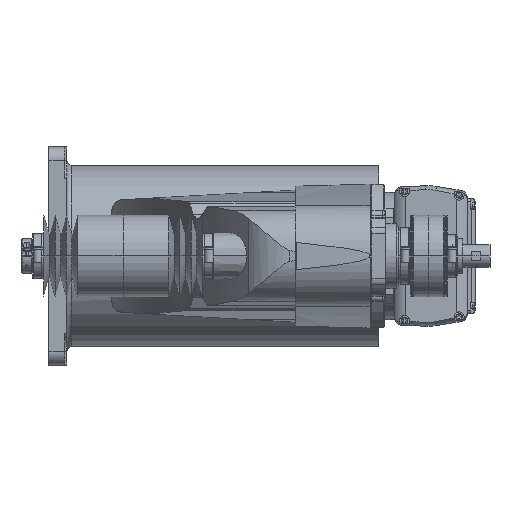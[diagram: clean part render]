
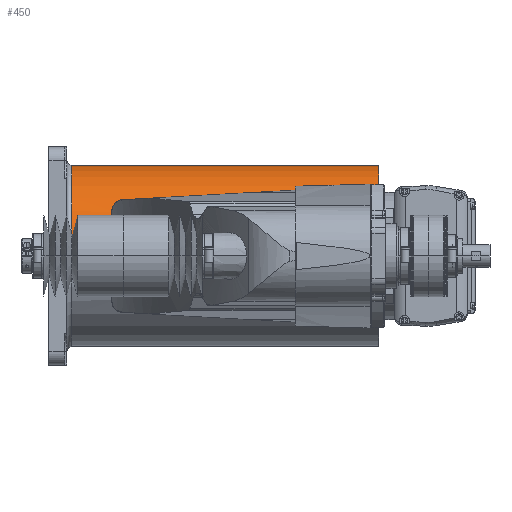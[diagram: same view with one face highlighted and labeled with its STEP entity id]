
A CAD part, left-side view. The second image highlights one B-rep face of the part: STEP entity #450.
In plain terms, the highlighted cylindrical face has radius 100 mm (diameter 200 mm), a partial arc.
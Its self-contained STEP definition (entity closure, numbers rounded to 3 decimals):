
#450 = ADVANCED_FACE( '', ( #2501 ), #2502, .T. );
#2501 = FACE_OUTER_BOUND( '', #6844, .T. );
#2502 = CYLINDRICAL_SURFACE( '', #6845, 100. );
#6844 = EDGE_LOOP( '', ( #11381, #11382, #11383, #11384, #11385, #11386, #11387, #11388, #11389, #11390, #11391, #11392, #11393, #11394, #11395, #11396 ) );
#6845 = AXIS2_PLACEMENT_3D( '', #11397, #11398, #11399 );
#11381 = ORIENTED_EDGE( '', *, *, #27055, .F. );
#11382 = ORIENTED_EDGE( '', *, *, #27056, .T. );
#11383 = ORIENTED_EDGE( '', *, *, #27057, .T. );
#11384 = ORIENTED_EDGE( '', *, *, #27058, .T. );
#11385 = ORIENTED_EDGE( '', *, *, #27059, .T. );
#11386 = ORIENTED_EDGE( '', *, *, #27060, .T. );
#11387 = ORIENTED_EDGE( '', *, *, #27061, .T. );
#11388 = ORIENTED_EDGE( '', *, *, #27062, .T. );
#11389 = ORIENTED_EDGE( '', *, *, #27063, .T. );
#11390 = ORIENTED_EDGE( '', *, *, #27064, .T. );
#11391 = ORIENTED_EDGE( '', *, *, #27065, .F. );
#11392 = ORIENTED_EDGE( '', *, *, #27066, .T. );
#11393 = ORIENTED_EDGE( '', *, *, #27067, .T. );
#11394 = ORIENTED_EDGE( '', *, *, #27068, .T. );
#11395 = ORIENTED_EDGE( '', *, *, #27069, .F. );
#11396 = ORIENTED_EDGE( '', *, *, #27070, .F. );
#11397 = CARTESIAN_POINT( '', ( 0., 194., 0. ) );
#11398 = DIRECTION( '', ( 0., 1., 0. ) );
#11399 = DIRECTION( '', ( 1., 0., 0. ) );
#27055 = EDGE_CURVE( '', #32088, #32089, #32090, .T. );
#27056 = EDGE_CURVE( '', #32088, #32091, #32092, .T. );
#27057 = EDGE_CURVE( '', #32091, #32093, #32094, .T. );
#27058 = EDGE_CURVE( '', #32093, #32095, #32096, .T. );
#27059 = EDGE_CURVE( '', #32095, #32097, #32098, .T. );
#27060 = EDGE_CURVE( '', #32097, #32099, #32100, .T. );
#27061 = EDGE_CURVE( '', #32099, #32101, #32102, .T. );
#27062 = EDGE_CURVE( '', #32101, #32103, #32104, .T. );
#27063 = EDGE_CURVE( '', #32103, #32105, #32106, .T. );
#27064 = EDGE_CURVE( '', #32105, #32107, #32108, .T. );
#27065 = EDGE_CURVE( '', #32109, #32107, #32110, .T. );
#27066 = EDGE_CURVE( '', #32109, #32111, #32112, .T. );
#27067 = EDGE_CURVE( '', #32111, #32113, #32114, .T. );
#27068 = EDGE_CURVE( '', #32113, #32115, #32116, .T. );
#27069 = EDGE_CURVE( '', #32117, #32115, #32118, .T. );
#27070 = EDGE_CURVE( '', #32089, #32117, #32119, .T. );
#32088 = VERTEX_POINT( '', #40214 );
#32089 = VERTEX_POINT( '', #40215 );
#32090 = LINE( '', #40216, #40217 );
#32091 = VERTEX_POINT( '', #40218 );
#32092 = CIRCLE( '', #40219, 100. );
#32093 = VERTEX_POINT( '', #40220 );
#32094 = LINE( '', #40221, #40222 );
#32095 = VERTEX_POINT( '', #40223 );
#32096 = CIRCLE( '', #40224, 100. );
#32097 = VERTEX_POINT( '', #40225 );
#32098 = LINE( '', #40226, #40227 );
#32099 = VERTEX_POINT( '', #40228 );
#32100 = CIRCLE( '', #40229, 100. );
#32101 = VERTEX_POINT( '', #40230 );
#32102 = B_SPLINE_CURVE_WITH_KNOTS( '', 3, ( #40231, #40232, #40233, #40234, #40235, #40236, #40237, #40238, #40239, #40240, #40241, #40242, #40243, #40244, #40245, #40246, #40247, #40248 ), .UNSPECIFIED., .F., .F., ( 4, 2, 2, 2, 2, 2, 2, 2, 4 ), ( -7.48, -6.36, -5.24, -4.12, -3., -2.25, -1.5, -0.75, 0. ), .UNSPECIFIED. );
#32103 = VERTEX_POINT( '', #40249 );
#32104 = LINE( '', #40250, #40251 );
#32105 = VERTEX_POINT( '', #40252 );
#32106 = CIRCLE( '', #40253, 100. );
#32107 = VERTEX_POINT( '', #40254 );
#32108 = CIRCLE( '', #40255, 100. );
#32109 = VERTEX_POINT( '', #40256 );
#32110 = LINE( '', #40257, #40258 );
#32111 = VERTEX_POINT( '', #40259 );
#32112 = CIRCLE( '', #40260, 100. );
#32113 = VERTEX_POINT( '', #40261 );
#32114 = LINE( '', #40262, #40263 );
#32115 = VERTEX_POINT( '', #40264 );
#32116 = CIRCLE( '', #40265, 100. );
#32117 = VERTEX_POINT( '', #40266 );
#32118 = LINE( '', #40267, #40268 );
#32119 = CIRCLE( '', #40269, 100. );
#40214 = CARTESIAN_POINT( '', ( 100., 64., 0. ) );
#40215 = CARTESIAN_POINT( '', ( 100., 25., 0. ) );
#40216 = CARTESIAN_POINT( '', ( 100., 194., 0. ) );
#40217 = VECTOR( '', #53765, 1. );
#40218 = CARTESIAN_POINT( '', ( 89.303, 64., 45. ) );
#40219 = AXIS2_PLACEMENT_3D( '', #53766, #53767, #53768 );
#40220 = CARTESIAN_POINT( '', ( 89.303, 62., 45. ) );
#40221 = CARTESIAN_POINT( '', ( 89.303, 63., 45. ) );
#40222 = VECTOR( '', #53769, 1. );
#40223 = CARTESIAN_POINT( '', ( 75.993, 62., 65. ) );
#40224 = AXIS2_PLACEMENT_3D( '', #53770, #53771, #53772 );
#40225 = CARTESIAN_POINT( '', ( 75.993, 64., 65. ) );
#40226 = CARTESIAN_POINT( '', ( 75.993, 63., 65. ) );
#40227 = VECTOR( '', #53773, 1. );
#40228 = CARTESIAN_POINT( '', ( 70.42, 64., 71. ) );
#40229 = AXIS2_PLACEMENT_3D( '', #53774, #53775, #53776 );
#40230 = CARTESIAN_POINT( '', ( 66.144, 68., 75. ) );
#40231 = CARTESIAN_POINT( '', ( 70.42, 64., 71. ) );
#40232 = CARTESIAN_POINT( '', ( 70.155, 64., 71.263 ) );
#40233 = CARTESIAN_POINT( '', ( 69.877, 64.026, 71.535 ) );
#40234 = CARTESIAN_POINT( '', ( 69.316, 64.139, 72.08 ) );
#40235 = CARTESIAN_POINT( '', ( 69.031, 64.224, 72.352 ) );
#40236 = CARTESIAN_POINT( '', ( 68.475, 64.457, 72.879 ) );
#40237 = CARTESIAN_POINT( '', ( 68.203, 64.604, 73.134 ) );
#40238 = CARTESIAN_POINT( '', ( 67.688, 64.954, 73.61 ) );
#40239 = CARTESIAN_POINT( '', ( 67.446, 65.158, 73.831 ) );
#40240 = CARTESIAN_POINT( '', ( 67.082, 65.542, 74.162 ) );
#40241 = CARTESIAN_POINT( '', ( 66.938, 65.716, 74.292 ) );
#40242 = CARTESIAN_POINT( '', ( 66.674, 66.103, 74.529 ) );
#40243 = CARTESIAN_POINT( '', ( 66.555, 66.315, 74.636 ) );
#40244 = CARTESIAN_POINT( '', ( 66.356, 66.766, 74.812 ) );
#40245 = CARTESIAN_POINT( '', ( 66.277, 67.005, 74.882 ) );
#40246 = CARTESIAN_POINT( '', ( 66.171, 67.497, 74.976 ) );
#40247 = CARTESIAN_POINT( '', ( 66.144, 67.75, 75. ) );
#40248 = CARTESIAN_POINT( '', ( 66.144, 68., 75. ) );
#40249 = CARTESIAN_POINT( '', ( 66.144, 363., 75. ) );
#40250 = CARTESIAN_POINT( '', ( 66.144, 215.5, 75. ) );
#40251 = VECTOR( '', #53777, 1. );
#40252 = CARTESIAN_POINT( '', ( 0., 363., 100. ) );
#40253 = AXIS2_PLACEMENT_3D( '', #53778, #53779, #53780 );
#40254 = CARTESIAN_POINT( '', ( -100., 363., 0. ) );
#40255 = AXIS2_PLACEMENT_3D( '', #53781, #53782, #53783 );
#40256 = CARTESIAN_POINT( '', ( -100., 311.3, 0. ) );
#40257 = CARTESIAN_POINT( '', ( -100., 194., 0. ) );
#40258 = VECTOR( '', #53784, 1. );
#40259 = CARTESIAN_POINT( '', ( -88., 311.3, 47.497 ) );
#40260 = AXIS2_PLACEMENT_3D( '', #53785, #53786, #53787 );
#40261 = CARTESIAN_POINT( '', ( -88., 218.3, 47.497 ) );
#40262 = CARTESIAN_POINT( '', ( -88., 264.8, 47.497 ) );
#40263 = VECTOR( '', #53788, 1. );
#40264 = CARTESIAN_POINT( '', ( -100., 218.3, 0. ) );
#40265 = AXIS2_PLACEMENT_3D( '', #53789, #53790, #53791 );
#40266 = CARTESIAN_POINT( '', ( -100., 25., 0. ) );
#40267 = CARTESIAN_POINT( '', ( -100., 194., 0. ) );
#40268 = VECTOR( '', #53792, 1. );
#40269 = AXIS2_PLACEMENT_3D( '', #53793, #53794, #53795 );
#53765 = DIRECTION( '', ( 0., -1., 0. ) );
#53766 = CARTESIAN_POINT( '', ( 0., 64., 0. ) );
#53767 = DIRECTION( '', ( 0., -1., 0. ) );
#53768 = DIRECTION( '', ( 1., 0., 0. ) );
#53769 = DIRECTION( '', ( 0., -1., 0. ) );
#53770 = CARTESIAN_POINT( '', ( 0., 62., 0. ) );
#53771 = DIRECTION( '', ( 0., -1., 0. ) );
#53772 = DIRECTION( '', ( 1., 0., 0. ) );
#53773 = DIRECTION( '', ( 0., 1., 0. ) );
#53774 = CARTESIAN_POINT( '', ( 0., 64., 0. ) );
#53775 = DIRECTION( '', ( 0., -1., 0. ) );
#53776 = DIRECTION( '', ( 1., 0., 0. ) );
#53777 = DIRECTION( '', ( 0., 1., 0. ) );
#53778 = CARTESIAN_POINT( '', ( 0., 363., 0. ) );
#53779 = DIRECTION( '', ( 0., -1., 0. ) );
#53780 = DIRECTION( '', ( 1., 0., 0. ) );
#53781 = CARTESIAN_POINT( '', ( 0., 363., 0. ) );
#53782 = DIRECTION( '', ( 0., -1., 0. ) );
#53783 = DIRECTION( '', ( 1., 0., 0. ) );
#53784 = DIRECTION( '', ( 0., 1., 0. ) );
#53785 = CARTESIAN_POINT( '', ( 0., 311.3, 0. ) );
#53786 = DIRECTION( '', ( 0., 1., 0. ) );
#53787 = DIRECTION( '', ( 1., 0., 0. ) );
#53788 = DIRECTION( '', ( 0., -1., 0. ) );
#53789 = CARTESIAN_POINT( '', ( 0., 218.3, 0. ) );
#53790 = DIRECTION( '', ( 0., -1., 0. ) );
#53791 = DIRECTION( '', ( 1., 0., 0. ) );
#53792 = DIRECTION( '', ( 0., 1., 0. ) );
#53793 = CARTESIAN_POINT( '', ( 0., 25., 0. ) );
#53794 = DIRECTION( '', ( 0., -1., 0. ) );
#53795 = DIRECTION( '', ( 1., 0., 0. ) );
